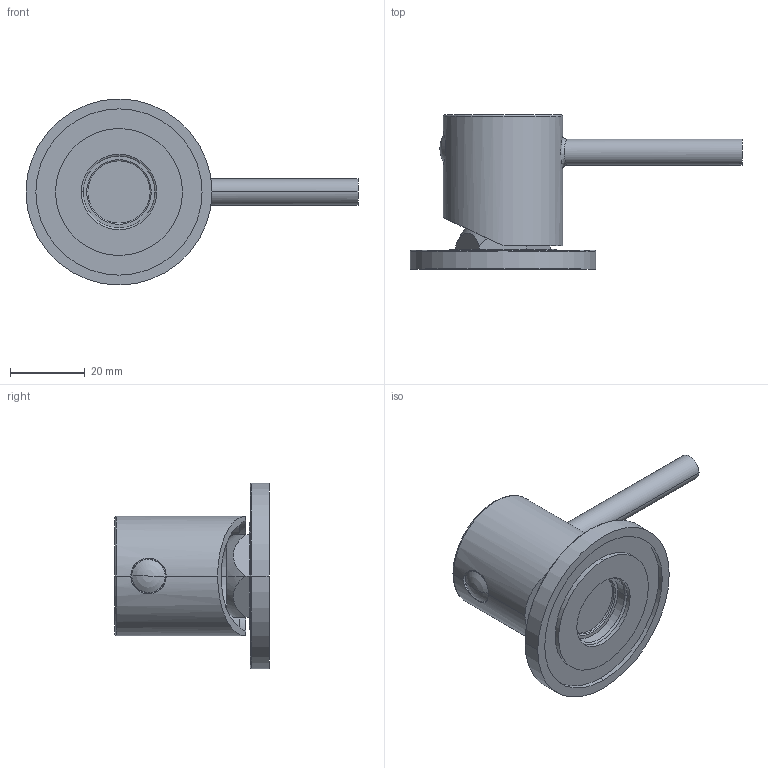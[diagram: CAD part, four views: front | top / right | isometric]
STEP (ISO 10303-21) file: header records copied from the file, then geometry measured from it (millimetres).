
FILE_DESCRIPTION((''),'2;1');
FILE_NAME('12031_SW0001','2025-02-18T10:52:19',('carloff'),(''),'CREO PARAMETRIC BY PTC INC, 2022014','CREO PARAMETRIC BY PTC INC, 2022014','');
FILE_SCHEMA(('CONFIG_CONTROL_DESIGN'));
Length unit declared in the file: millimetre
Products named in the file (1): 12031_SW0001
Bounding box: 88.9 x 41.3 x 49.8 mm (x, y, z)
Volume: 22705 mm3; surface area: 15005.2 mm2
Topology: 2 solids, 2 shells, 95 faces, 223 edges, 140 vertices
Faces by surface type: plane 33, cylinder 25, cone 12, torus 12, bspline 11, sphere 2
Entity records: 4461 total; most frequent: CARTESIAN_POINT 2331, ORIENTED_EDGE 442, DIRECTION 423, EDGE_CURVE 221, AXIS2_PLACEMENT_3D 180, VERTEX_POINT 140, EDGE_LOOP 105, CIRCLE 96
